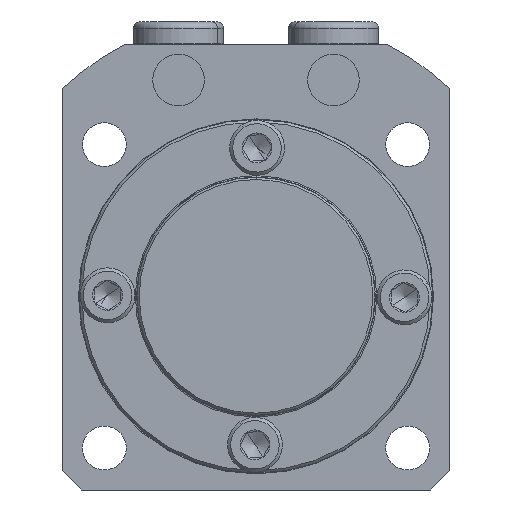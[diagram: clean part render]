
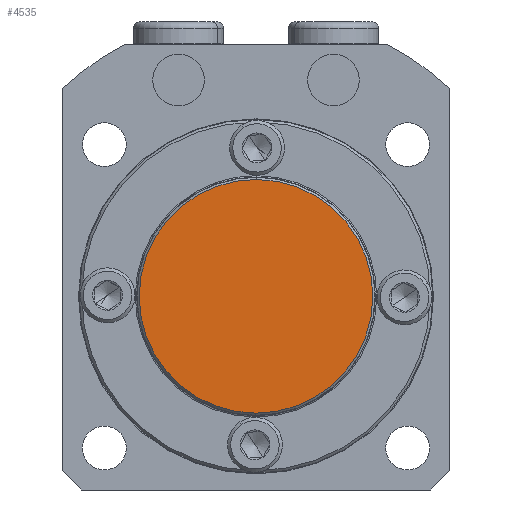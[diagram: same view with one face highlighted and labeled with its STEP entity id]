
A CAD part, front view. The second image highlights one B-rep face of the part: STEP entity #4535.
In plain terms, the highlighted planar face has unit normal (0, -1, 0).
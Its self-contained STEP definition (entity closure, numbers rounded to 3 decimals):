
#463 = CARTESIAN_POINT ( 'NONE',  ( 0., -10., 0. ) ) ;
#464 = DIRECTION ( 'NONE',  ( 0., -1., 0. ) ) ;
#465 = DIRECTION ( 'NONE',  ( 0., 0., -1. ) ) ;
#865 = EDGE_CURVE ( 'NONE', #3513, #3510, #2665, .T. ) ;
#1021 = CARTESIAN_POINT ( 'NONE',  ( 0., -10., 0. ) ) ;
#1029 = FACE_OUTER_BOUND ( 'NONE', #3549, .T. ) ;
#1030 = PLANE ( 'NONE',  #3016 ) ;
#1033 = DIRECTION ( 'NONE',  ( 0., -1., 0. ) ) ;
#1034 = DIRECTION ( 'NONE',  ( 0., 0., -1. ) ) ;
#1973 = CARTESIAN_POINT ( 'NONE',  ( 0., -10., 18.1 ) ) ;
#1976 = CARTESIAN_POINT ( 'NONE',  ( 0., -10., -18.1 ) ) ;
#2665 = CIRCLE ( 'NONE', #2668, 18.1 ) ;
#2668 = AXIS2_PLACEMENT_3D ( 'NONE', #463, #464, #465 ) ;
#2699 = EDGE_CURVE ( 'NONE', #3510, #3513, #2799, .T. ) ;
#2799 = CIRCLE ( 'NONE', #2802, 18.1 ) ;
#2802 = AXIS2_PLACEMENT_3D ( 'NONE', #4729, #4730, #4731 ) ;
#3016 = AXIS2_PLACEMENT_3D ( 'NONE', #1021, #1033, #1034 ) ;
#3510 = VERTEX_POINT ( 'NONE', #1973 ) ;
#3513 = VERTEX_POINT ( 'NONE', #1976 ) ;
#3549 = EDGE_LOOP ( 'NONE', ( #3821, #3822 ) ) ;
#3821 = ORIENTED_EDGE ( 'NONE', *, *, #2699, .T. ) ;
#3822 = ORIENTED_EDGE ( 'NONE', *, *, #865, .T. ) ;
#4535 = ADVANCED_FACE ( 'NONE', ( #1029 ), #1030, .T. ) ;
#4729 = CARTESIAN_POINT ( 'NONE',  ( 0., -10., 0. ) ) ;
#4730 = DIRECTION ( 'NONE',  ( 0., -1., 0. ) ) ;
#4731 = DIRECTION ( 'NONE',  ( 0., 0., -1. ) ) ;
